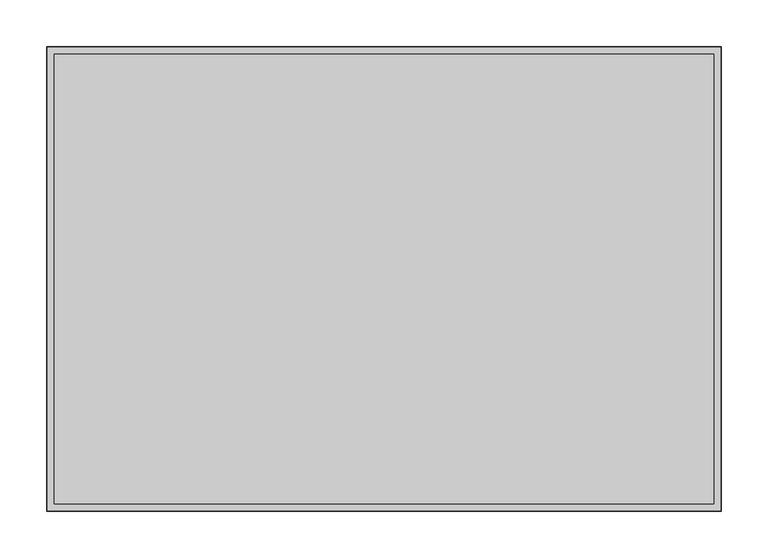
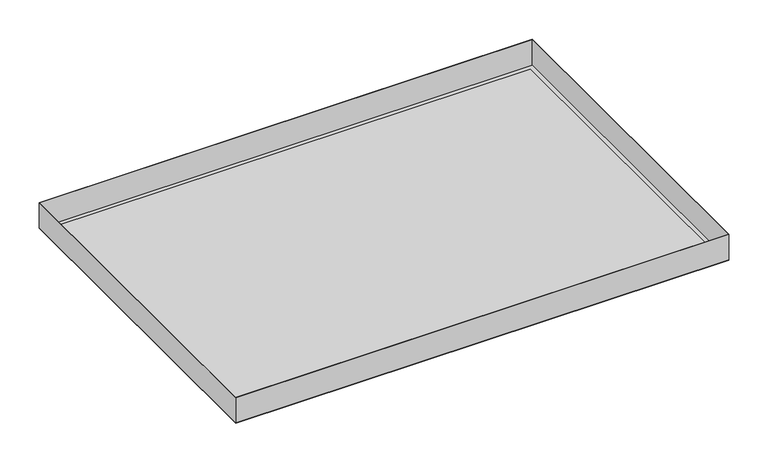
"""IFC4 building model written with IfcOpenShell, lengths in millimetres: proxy geometry, durlum_S5-100_panel : durlum_S5-100_panel_wall_corner."""

import ifcopenshell
import ifcopenshell.guid

model = None  # the IFC model being written
_history = None  # IfcOwnerHistory: only IFC2X3 demands one
_inside = {}  # id of a spatial element -> (the spatial element, [elements in it])
_under = {}  # id of a project, library or spatial element -> (it, [spatial elements below it])
_declared = {}  # id of a project -> (the project, [libraries it declares])
_typed = {}  # id of a type object -> (the type object, [elements of that type])
_made_of = {}  # id of a material, layer set ... -> (it, [elements and type objects made of it])


def new_model(schema):
    """Start an empty IFC model of exactly this schema.

    Asked for "IFC4X3", IfcOpenShell would pick the latest addendum, in which some entities
    have other attributes; the version numbers below select the first issue.
    IFC2X3 requires an IfcOwnerHistory on every rooted entity: one is made here for all.
    """
    global model, _history
    if schema == "IFC4X3":
        model = ifcopenshell.file(schema_version=(4, 3, 0, 0))
    else:
        model = ifcopenshell.file(schema=schema)
    _inside.clear()
    _under.clear()
    _declared.clear()
    _typed.clear()
    _made_of.clear()
    _history = None
    if model.schema == "IFC2X3":
        org = make("IfcOrganization", Name="unknown")
        user = make(
            "IfcPersonAndOrganization",
            ThePerson=make("IfcPerson", FamilyName="unknown"),
            TheOrganization=org,
        )
        app = make(
            "IfcApplication",
            ApplicationDeveloper=org,
            Version="unknown",
            ApplicationFullName="unknown",
            ApplicationIdentifier="unknown",
        )
        _history = make(
            "IfcOwnerHistory",
            OwningUser=user,
            OwningApplication=app,
            ChangeAction="ADDED",
            CreationDate=0,
        )
    return model


def make(cls, **values):
    """One entity of the class cls with the attributes given. An attribute that is None is left unset."""
    return model.create_entity(
        cls, **{name: value for name, value in values.items() if value is not None}
    )


def rooted(cls, **values):
    """An entity with a GlobalId (a new one), such as an element, a storey or a relation."""
    return make(cls, GlobalId=ifcopenshell.guid.new(), OwnerHistory=_history, **values)


def si_unit(unit_type, name, prefix=None):
    """IfcSIUnit, for example si_unit("LENGTHUNIT", "METRE", prefix="MILLI")."""
    return make("IfcSIUnit", UnitType=unit_type, Prefix=prefix, Name=name)


def assignment(units):
    """IfcUnitAssignment: the units of a project."""
    return None if units is None else make("IfcUnitAssignment", Units=units)


def point(xyz):
    """IfcCartesianPoint."""
    return None if xyz is None else make("IfcCartesianPoint", Coordinates=xyz)


def direction(xyz):
    """IfcDirection."""
    return None if xyz is None else make("IfcDirection", DirectionRatios=xyz)


def frame(location, z_axis=None, x_axis=None):
    """IfcAxis2Placement3D, a coordinate frame: its origin and axes. An axis left out is left unset."""
    return make(
        "IfcAxis2Placement3D",
        Location=point(location),
        Axis=direction(z_axis),
        RefDirection=direction(x_axis),
    )


def origin():
    """The frame at (0, 0, 0) with its axes left unset."""
    return frame((0.0, 0.0, 0.0))


def origin_with_axes():
    """The frame at (0, 0, 0) with the z axis (0, 0, 1) and the x axis (1, 0, 0) written out."""
    return frame((0.0, 0.0, 0.0), z_axis=(0.0, 0.0, 1.0), x_axis=(1.0, 0.0, 0.0))


def place(relative_to, where):
    """IfcLocalPlacement: puts the frame where relative to a parent placement (None: the world)."""
    return make(
        "IfcLocalPlacement", PlacementRelTo=relative_to, RelativePlacement=where
    )


def context(
    kind, dimensions, precision=None, world=None, true_north=None, identifier=None
):
    """IfcGeometricRepresentationContext, for example the 3D "Model" context."""
    return make(
        "IfcGeometricRepresentationContext",
        ContextIdentifier=identifier,
        ContextType=kind,
        CoordinateSpaceDimension=dimensions,
        Precision=precision,
        WorldCoordinateSystem=world,
        TrueNorth=true_north,
    )


def project(units=None, contexts=None):
    """IfcProject with its units and contexts."""
    return rooted(
        "IfcProject",
        Name="project",
        RepresentationContexts=contexts,
        UnitsInContext=assignment(units),
    )


def spatial(cls, under=None, at=None, **own):
    """A site, building, storey or space (cls), placed at a placement, below another one or the project."""
    s = rooted(cls, ObjectPlacement=at, **own)
    if under is not None:
        _under.setdefault(under.id(), (under, []))[1].append(s)
    return s


def polyline(points):
    """IfcPolyline through the points."""
    return make("IfcPolyline", Points=[point(p) for p in points])


def outline(outer, holes=None, kind="AREA"):
    """IfcArbitraryClosedProfileDef: a profile drawn as a closed curve; with holes, ...WithVoids."""
    if holes is None:
        return make("IfcArbitraryClosedProfileDef", ProfileType=kind, OuterCurve=outer)
    return make(
        "IfcArbitraryProfileDefWithVoids",
        ProfileType=kind,
        OuterCurve=outer,
        InnerCurves=holes,
    )


def extrude(swept, where, along, depth):
    """IfcExtrudedAreaSolid: the profile swept, set in the frame where, extruded along a direction by depth."""
    return make(
        "IfcExtrudedAreaSolid",
        SweptArea=swept,
        Position=where,
        ExtrudedDirection=direction(along),
        Depth=depth,
    )


def shape(context_of_items, identifier, shape_type, items):
    """IfcShapeRepresentation: the items that make up one representation, for example the "Body"."""
    return make(
        "IfcShapeRepresentation",
        ContextOfItems=context_of_items,
        RepresentationIdentifier=identifier,
        RepresentationType=shape_type,
        Items=items,
    )


def source(mapping_origin, context_of_items, identifier, shape_type, items):
    """IfcRepresentationMap: a shape defined once, which mapped items show again and again."""
    return make(
        "IfcRepresentationMap",
        MappingOrigin=mapping_origin,
        MappedRepresentation=shape(context_of_items, identifier, shape_type, items),
    )


def transform(
    local_origin,
    x_axis=None,
    y_axis=None,
    z_axis=None,
    scale=None,
    scale2=None,
    scale3=None,
    uniform=True,
):
    """IfcCartesianTransformationOperator3D, or its non-uniform kind. x_axis, y_axis, z_axis: its Axis1, 2, 3."""
    if uniform:
        return make(
            "IfcCartesianTransformationOperator3D",
            Axis1=direction(x_axis),
            Axis2=direction(y_axis),
            LocalOrigin=point(local_origin),
            Scale=scale,
            Axis3=direction(z_axis),
        )
    return make(
        "IfcCartesianTransformationOperator3DnonUniform",
        Axis1=direction(x_axis),
        Axis2=direction(y_axis),
        LocalOrigin=point(local_origin),
        Scale=scale,
        Axis3=direction(z_axis),
        Scale2=scale2,
        Scale3=scale3,
    )


def mapped(mapping_source, mapping_target):
    """IfcMappedItem: shows the shape of a source again, moved by a transform."""
    return make(
        "IfcMappedItem", MappingSource=mapping_source, MappingTarget=mapping_target
    )


def made_of(thing, what):
    """Note that an element or type object is made of a material, layer set ...; save() writes the relation."""
    if what is not None:
        _made_of.setdefault(what.id(), (what, []))[1].append(thing)
    return thing


def element(
    cls,
    number,
    at=None,
    inside=None,
    cuts=None,
    type_object=None,
    material=None,
    context=None,
    identifier="Body",
    shape_type=None,
    held_by="IfcProductDefinitionShape",
    body=None,
    shapes=None,
    **own,
):
    """One element of the class cls, such as IfcWall. Its Tag is "e" and its number.

    at: its placement. inside: the storey or other place that contains it. cuts: it is an
    opening in that element (IfcRelVoidsElement). A single representation is given by context,
    identifier, shape_type and body (its items); several are given by shapes. held_by: the class
    of the entity that holds the representations. save() writes the other relations.
    """
    e = rooted(cls, Tag="e%d" % number, ObjectPlacement=at, **own)
    if body is not None:
        shapes = [shape(context, identifier, shape_type, body)]
    if shapes is not None:
        e.Representation = make(held_by, Representations=shapes)
    if inside is not None:
        _inside.setdefault(inside.id(), (inside, []))[1].append(e)
    if cuts is not None:
        rooted(
            "IfcRelVoidsElement", RelatingBuildingElement=cuts, RelatedOpeningElement=e
        )
    if type_object is not None:
        _typed.setdefault(type_object.id(), (type_object, []))[1].append(e)
    return made_of(e, material)


def aggregate(whole, parts):
    """IfcRelAggregates: a whole, such as a stair, and the parts it consists of."""
    return rooted("IfcRelAggregates", RelatingObject=whole, RelatedObjects=parts)


def save(model, path):
    """Write the relations noted so far, then the file.

    IfcRelAggregates (storeys below a building ...), IfcRelContainedInSpatialStructure (elements
    in a storey), IfcRelDefinesByType, IfcRelAssociatesMaterial and IfcRelDeclares: one each for
    every whole, place, type object, material and project.
    """
    for whole, parts in _under.values():
        aggregate(whole, parts)
    for where, things in _inside.values():
        rooted(
            "IfcRelContainedInSpatialStructure",
            RelatedElements=things,
            RelatingStructure=where,
        )
    for kind, things in _typed.values():
        rooted("IfcRelDefinesByType", RelatedObjects=things, RelatingType=kind)
    for what, things in _made_of.values():
        rooted("IfcRelAssociatesMaterial", RelatedObjects=things, RelatingMaterial=what)
    for by, libraries in _declared.values():
        rooted("IfcRelDeclares", RelatingContext=by, RelatedDefinitions=libraries)
    model.write(path)


def generic_models_ab47d6b6(model_context):
    return source(origin(), model_context, "Body", "SweptSolid", [
        extrude(outline(polyline([(362.25, 249.75), (362.25, -249.75), (-362.25, -249.75), (-362.25, 249.75), (362.25, 249.75)]), holes=[polyline([(361.65, 249.15), (-361.65, 249.15), (-361.65, -249.15), (361.65, -249.15), (361.65, 249.15)])]), frame((0.0, 0.0, 0.6), z_axis=(0.0, 0.0, 1.0), x_axis=(1.0, 0.0, 0.0)), (0.0, 0.0, 1.0), 39.4),
        extrude(outline(polyline([(354.25, 241.75), (354.25, -241.75), (-354.25, -241.75), (-354.25, 241.75), (354.25, 241.75)])), frame((0.0, 0.0, 0.6), z_axis=(0.0, 0.0, 1.0), x_axis=(1.0, 0.0, 0.0)), (0.0, 0.0, 1.0), 0.6),
        extrude(outline(polyline([(362.25, 249.75), (362.25, -249.75), (-362.25, -249.75), (-362.25, 249.75), (362.25, 249.75)]), holes=[polyline([(354.25, 241.75), (-354.25, 241.75), (-354.25, -241.75), (354.25, -241.75), (354.25, 241.75)])]), origin_with_axes(), (0.0, 0.0, 1.0), 0.6),
        extrude(outline(polyline([(354.25, 241.75), (354.25, -241.75), (-354.25, -241.75), (-354.25, 241.75), (354.25, 241.75)])), origin_with_axes(), (0.0, 0.0, 1.0), 0.6),
    ])


if __name__ == "__main__":
    model = new_model("IFC4")
    model_context = context("Model", 3, world=origin())
    ifc_project = project(units=[si_unit("LENGTHUNIT", "METRE", prefix="MILLI")], contexts=[model_context])
    site = spatial("IfcSite", under=ifc_project)
    building = spatial("IfcBuilding", under=site)
    placement = place(None, origin())
    generic_models_shape = generic_models_ab47d6b6(model_context)
    element("IfcBuildingElementProxy", 1, Name="durlum_S5-100_panel : durlum_S5-100_panel_wall_corner", ObjectType="durlum_S5-100_panel : durlum_S5-100_panel_wall_corner", at=placement, inside=building, context=model_context, shape_type="MappedRepresentation", body=[
        mapped(generic_models_shape, transform((0.0, 0.0, 0.0), x_axis=(1.0, 0.0, 0.0), y_axis=(0.0, 1.0, 0.0), z_axis=(0.0, 0.0, 1.0))),
    ])
    save(model, "model.ifc")
